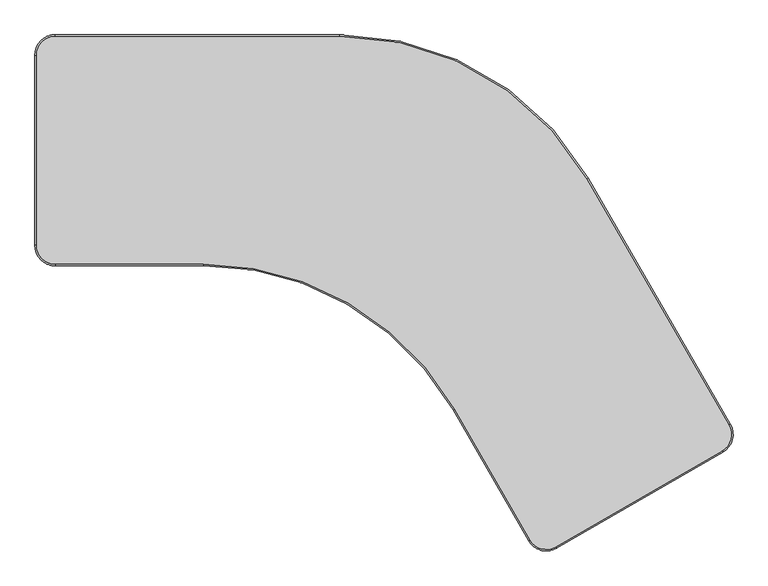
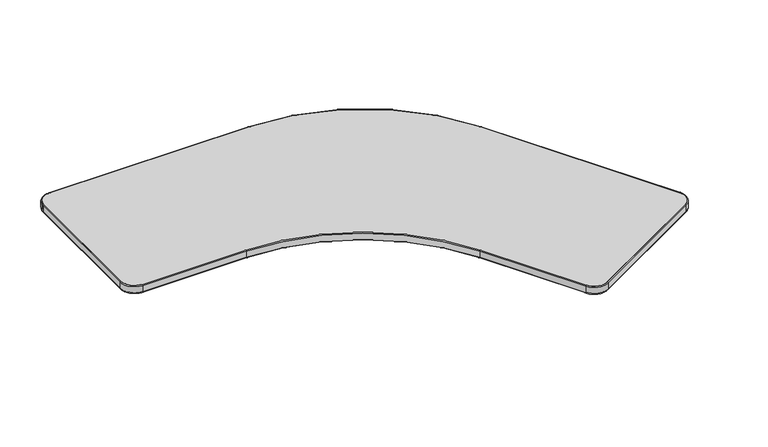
"""IFC4 building model written with IfcOpenShell, lengths in millimetres: furniture geometry, Steelcase - Answer Solution - Universal Table - Corner 120deg - 3mm Edge : 24D x 48W."""

from ifc_helpers import new_model, si_unit, point, frame, frame_2d, origin, place, context, project, spatial, polyline, circle_curve, ellipse_curve, trimmed, segment, composite_curve, outline, extrude, source, transform, mapped, element, save
from ifc_brep_helpers import plane_surface, cylinder_surface, revolved_surface, advanced_brep


def furniture_09d0de0e(model_context):
    return source(origin(), model_context, "Body", "SolidModel", [
        advanced_brep(
        [(53.8515842, -609.5840268, 641.1116623), (0.0, -555.7324426, 641.1116623), (3.0515842, -555.7324426, 638.1749651), (53.8515842, -606.5324426, 638.1749651), (53.8515842, -609.5840268, 665.3021988), (0.0, -555.7324426, 665.3021988), (53.8515842, -606.5324426, 668.274), (3.0515842, -555.7324426, 668.274), (444.7343387, -606.5324426, 638.1749651), (444.7343387, -609.5840268, 641.1116623), (444.7343387, -609.5840268, 665.3021988), (444.7343387, -606.5324426, 668.274), (1105.1067617, -990.8502229, 641.1116623), (1107.7495111, -989.3244308, 638.1749651), (1105.1067617, -990.8502229, 665.3021988), (1107.7495111, -989.3244308, 668.274), (1307.4749139, -1335.258976, 638.1749651), (1304.8321644, -1336.7847681, 641.1116623), (1304.8321644, -1336.7847681, 665.3021988), (1307.4749139, -1335.258976, 668.274), (1378.3947964, -1356.4958159, 641.1116623), (1376.8690044, -1353.8530665, 638.1749651), (1378.3947964, -1356.4958159, 665.3021988), (1376.8690044, -1353.8530665, 668.274), (1816.8099095, -1099.8530665, 638.1749651), (1818.3357016, -1102.4958159, 641.1116623), (1818.3357016, -1102.4958159, 665.3021988), (1816.8099095, -1099.8530665, 668.274), (1838.0467494, -1028.9331839, 641.1116623), (1835.404, -1030.458976, 638.1749651), (1838.0467494, -1028.9331839, 665.3021988), (1835.404, -1030.458976, 668.274), (1460.3433649, -380.8349001, 638.1749651), (1462.9861143, -379.3091081, 641.1116623), (1462.9861143, -379.3091081, 665.3021988), (1460.3433649, -380.8349001, 668.274), (805.9312686, 0.041684, 641.1116623), (805.9312686, -3.0099001, 638.1749651), (805.9312686, 0.041684, 665.3021988), (805.9312686, -3.0099001, 668.274), (53.8515842, -3.0099001, 638.1749651), (53.8515842, 0.041684, 641.1116623), (53.8515842, 0.041684, 665.3021988), (53.8515842, -3.0099001, 668.274), (0.0, -53.8099001, 641.1116623), (3.0515842, -53.8099001, 638.1749651), (0.0, -53.8099001, 665.3021988), (3.0515842, -53.8099001, 668.274)],
        [
            (0, 1, circle_curve(frame((53.8515842, -555.7324426, 641.1116623), z_axis=(0.0, 0.0, -1.0), x_axis=(-1.0, 0.0, 0.0)), 53.8515842)),
            (1, 2, circle_curve(frame((2.9388598, -555.7324426, 641.1116623), z_axis=(0.0, -1.0, 0.0), x_axis=(1.0, 0.0, 0.0)), 2.9388598)),
            (2, 3, circle_curve(frame((53.8515842, -555.7324426, 638.1749651), z_axis=(0.0, 0.0, 1.0), x_axis=(-1.0, 0.0, 0.0)), 50.8)),
            (3, 0, circle_curve(frame((53.8515842, -606.6451669, 641.1116623), z_axis=(-1.0, 0.0, 0.0), x_axis=(0.0, 1.0, 0.0)), 2.9388598)),
            (4, 5, circle_curve(frame((53.8515842, -555.7324426, 665.3021988), z_axis=(0.0, 0.0, -1.0), x_axis=(-1.0, 0.0, 0.0)), 53.8515842)),
            (5, 1),
            (0, 4),
            (6, 7, circle_curve(frame((53.8515842, -555.7324426, 668.274), z_axis=(0.0, 0.0, -1.0), x_axis=(-1.0, 0.0, 0.0)), 50.8)),
            (7, 5, circle_curve(frame((2.9728441, -555.7324426, 665.3021988), z_axis=(0.0, -1.0, 0.0), x_axis=(1.0, 0.0, 0.0)), 2.9728441)),
            (4, 6, circle_curve(frame((53.8515842, -606.6111826, 665.3021988), z_axis=(-1.0, 0.0, 0.0), x_axis=(0.0, 1.0, 0.0)), 2.9728441)),
            (2, 7),
            (6, 3),
            (3, 8),
            (8, 9, circle_curve(frame((444.7343387, -606.6451669, 641.1116623), z_axis=(-1.0, 0.0, 0.0), x_axis=(0.0, 1.0, 0.0)), 2.9388598)),
            (9, 0),
            (9, 10),
            (10, 4),
            (10, 11, circle_curve(frame((444.7343387, -606.6111826, 665.3021988), z_axis=(-1.0, 0.0, 0.0), x_axis=(0.0, 1.0, 0.0)), 2.9728441)),
            (11, 6),
            (11, 8),
            (12, 9, circle_curve(frame((444.7343387, -1372.116419, 641.1116623), z_axis=(0.0, 0.0, 1.0), x_axis=(0.0, 1.0, 0.0)), 762.5323923)),
            (8, 13, circle_curve(frame((444.7343387, -1372.116419, 638.1749651), z_axis=(0.0, 0.0, -1.0), x_axis=(0.0, 1.0, 0.0)), 765.5839765)),
            (13, 12, circle_curve(frame((1107.6518889, -989.380793, 641.1116623), z_axis=(-0.49999999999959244, 0.866025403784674, 0.0), x_axis=(0.866025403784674, 0.49999999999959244, 0.0)), 2.9388598)),
            (14, 10, circle_curve(frame((444.7343387, -1372.116419, 665.3021988), z_axis=(0.0, 0.0, 1.0), x_axis=(0.0, 1.0, 0.0)), 762.5323923)),
            (12, 14),
            (15, 11, circle_curve(frame((444.7343387, -1372.116419, 668.274), z_axis=(0.0, 0.0, 1.0), x_axis=(0.0, 1.0, 0.0)), 765.5839765)),
            (14, 15, circle_curve(frame((1107.6813202, -989.3638008, 665.3021988), z_axis=(-0.49999999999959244, 0.866025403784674, 0.0), x_axis=(0.866025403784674, 0.49999999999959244, 0.0)), 2.9728441)),
            (15, 13),
            (13, 16),
            (16, 17, circle_curve(frame((1307.3772917, -1335.3153382, 641.1116623), z_axis=(-0.4999999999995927, 0.8660254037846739, 0.0), x_axis=(0.8660254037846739, 0.4999999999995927, 0.0)), 2.9388598)),
            (17, 12),
            (17, 18),
            (18, 14),
            (18, 19, circle_curve(frame((1307.406723, -1335.298346, 665.3021988), z_axis=(-0.4999999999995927, 0.8660254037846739, 0.0), x_axis=(0.8660254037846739, 0.4999999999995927, 0.0)), 2.9728441)),
            (19, 15),
            (19, 16),
            (20, 17, circle_curve(frame((1351.4690044, -1309.858976, 641.1116623), z_axis=(0.0, 0.0, -1.0), x_axis=(-0.8660254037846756, -0.49999999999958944, 0.0)), 53.8515842)),
            (16, 21, circle_curve(frame((1351.4690044, -1309.858976, 638.1749651), z_axis=(0.0, 0.0, 1.0), x_axis=(-0.8660254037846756, -0.49999999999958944, 0.0)), 50.8)),
            (21, 20, circle_curve(frame((1376.9253665, -1353.9506886, 641.1116623), z_axis=(-0.8660254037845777, -0.49999999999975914, 0.0), x_axis=(-0.49999999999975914, 0.8660254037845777, 0.0)), 2.9388598)),
            (22, 18, circle_curve(frame((1351.4690044, -1309.858976, 665.3021988), z_axis=(0.0, 0.0, -1.0), x_axis=(-0.8660254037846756, -0.49999999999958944, 0.0)), 53.8515842)),
            (20, 22),
            (23, 19, circle_curve(frame((1351.4690044, -1309.858976, 668.274), z_axis=(0.0, 0.0, -1.0), x_axis=(-0.8660254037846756, -0.49999999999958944, 0.0)), 50.8)),
            (22, 23, circle_curve(frame((1376.9083744, -1353.9212574, 665.3021988), z_axis=(-0.8660254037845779, -0.49999999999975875, 0.0), x_axis=(-0.49999999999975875, 0.8660254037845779, 0.0)), 2.9728441)),
            (23, 21),
            (21, 24),
            (24, 25, circle_curve(frame((1816.8662716, -1099.9506886, 641.1116623), z_axis=(-0.8660254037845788, -0.4999999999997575, 0.0), x_axis=(-0.4999999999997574, 0.8660254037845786, 0.0)), 2.9388598)),
            (25, 20),
            (25, 26),
            (26, 22),
            (26, 27, circle_curve(frame((1816.8492795, -1099.9212574, 665.3021988), z_axis=(-0.8660254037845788, -0.4999999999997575, 0.0), x_axis=(-0.4999999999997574, 0.8660254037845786, 0.0)), 2.9728441)),
            (27, 23),
            (27, 24),
            (28, 25, circle_curve(frame((1791.4099095, -1055.858976, 641.1116623), z_axis=(0.0, 0.0, -1.0), x_axis=(0.49999999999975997, -0.8660254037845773, 0.0)), 53.8515842)),
            (24, 29, circle_curve(frame((1791.4099095, -1055.858976, 638.1749651), z_axis=(0.0, 0.0, 1.0), x_axis=(0.49999999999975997, -0.8660254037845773, 0.0)), 50.8)),
            (29, 28, circle_curve(frame((1835.5016221, -1030.4026138, 641.1116623), z_axis=(0.5000000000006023, -0.866025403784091, 0.0), x_axis=(-0.866025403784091, -0.5000000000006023, 0.0)), 2.9388598)),
            (30, 26, circle_curve(frame((1791.4099095, -1055.858976, 665.3021988), z_axis=(0.0, 0.0, -1.0), x_axis=(0.49999999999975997, -0.8660254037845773, 0.0)), 53.8515842)),
            (28, 30),
            (31, 27, circle_curve(frame((1791.4099095, -1055.858976, 668.274), z_axis=(0.0, 0.0, -1.0), x_axis=(0.49999999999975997, -0.8660254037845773, 0.0)), 50.8)),
            (30, 31, circle_curve(frame((1835.4721909, -1030.419606, 665.3021988), z_axis=(0.5000000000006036, -0.8660254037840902, 0.0), x_axis=(-0.8660254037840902, -0.5000000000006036, 0.0)), 2.9728441)),
            (31, 29),
            (29, 32),
            (32, 33, circle_curve(frame((1460.4409871, -380.778538, 641.1116623), z_axis=(0.5000000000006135, -0.8660254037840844, 0.0), x_axis=(-0.8660254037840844, -0.5000000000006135, 0.0)), 2.9388598)),
            (33, 28),
            (33, 34),
            (34, 30),
            (34, 35, circle_curve(frame((1460.4115558, -380.7955301, 665.3021988), z_axis=(0.5000000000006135, -0.8660254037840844, 0.0), x_axis=(-0.8660254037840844, -0.5000000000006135, 0.0)), 2.9728441)),
            (35, 31),
            (35, 32),
            (36, 33, circle_curve(frame((805.9312686, -758.6599001, 641.1116623), z_axis=(0.0, 0.0, -1.0), x_axis=(0.8660254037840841, 0.5000000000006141, 0.0)), 758.7015842)),
            (32, 37, circle_curve(frame((805.9312686, -758.6599001, 638.1749651), z_axis=(0.0, 0.0, 1.0), x_axis=(0.8660254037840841, 0.5000000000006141, 0.0)), 755.65)),
            (37, 36, circle_curve(frame((805.9312686, -2.8971758, 641.1116623), z_axis=(1.0, 0.0, 0.0), x_axis=(0.0, -1.0, 0.0)), 2.9388598)),
            (38, 34, circle_curve(frame((805.9312686, -758.6599001, 665.3021988), z_axis=(0.0, 0.0, -1.0), x_axis=(0.8660254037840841, 0.5000000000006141, 0.0)), 758.7015842)),
            (36, 38),
            (39, 35, circle_curve(frame((805.9312686, -758.6599001, 668.274), z_axis=(0.0, 0.0, -1.0), x_axis=(0.8660254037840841, 0.5000000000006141, 0.0)), 755.65)),
            (38, 39, circle_curve(frame((805.9312686, -2.9311601, 665.3021988), z_axis=(1.0, 0.0, 0.0), x_axis=(0.0, -1.0, 0.0)), 2.9728441)),
            (39, 37),
            (37, 40),
            (40, 41, circle_curve(frame((53.8515842, -2.8971758, 641.1116623), z_axis=(1.0, 0.0, 0.0), x_axis=(0.0, -1.0, 0.0)), 2.9388598)),
            (41, 36),
            (41, 42),
            (42, 38),
            (42, 43, circle_curve(frame((53.8515842, -2.9311601, 665.3021988), z_axis=(1.0, 0.0, 0.0), x_axis=(0.0, -1.0, 0.0)), 2.9728441)),
            (43, 39),
            (43, 40),
            (44, 41, circle_curve(frame((53.8515842, -53.8099001, 641.1116623), z_axis=(0.0, 0.0, -1.0), x_axis=(0.0, 1.0, 0.0)), 53.8515842)),
            (40, 45, circle_curve(frame((53.8515842, -53.8099001, 638.1749651), z_axis=(0.0, 0.0, 1.0), x_axis=(0.0, 1.0, 0.0)), 50.8)),
            (45, 44, circle_curve(frame((2.9388598, -53.8099001, 641.1116623), z_axis=(0.0, 1.0, 0.0), x_axis=(1.0, 0.0, 0.0)), 2.9388598)),
            (46, 42, circle_curve(frame((53.8515842, -53.8099001, 665.3021988), z_axis=(0.0, 0.0, -1.0), x_axis=(0.0, 1.0, 0.0)), 53.8515842)),
            (44, 46),
            (47, 43, circle_curve(frame((53.8515842, -53.8099001, 668.274), z_axis=(0.0, 0.0, -1.0), x_axis=(0.0, 1.0, 0.0)), 50.8)),
            (46, 47, circle_curve(frame((2.9728441, -53.8099001, 665.3021988), z_axis=(0.0, 1.0, 0.0), x_axis=(1.0, 0.0, 0.0)), 2.9728441)),
            (47, 45),
            (45, 2),
            (1, 44),
            (5, 46),
            (7, 47),
        ],
        [
            revolved_surface(trimmed(ellipse_curve(frame((2.9388598, -555.7324426, 641.1116623), z_axis=(0.0, 1.0, 0.0), x_axis=(1.0, 0.0, 0.0)), 2.9388598, 2.9388598), [point((3.0515842, -555.7324426, 638.1749651))], [point((0.0, -555.7324426, 641.1116623))], True, "CARTESIAN"), (53.8515842, -555.7324426, 638.1749651), (0.0, 0.0, 1.0)),
            cylinder_surface(frame((53.8515842, -555.7324426, 638.1749651), z_axis=(0.0, 0.0, 1.0), x_axis=(-1.0, 0.0, 0.0)), 53.8515842),
            revolved_surface(trimmed(ellipse_curve(frame((2.9728441, -555.7324426, 665.3021988), z_axis=(0.0, 1.0, 0.0), x_axis=(1.0, 0.0, 0.0)), 2.9728441, 2.9728441), [point((0.0, -555.7324426, 665.3021988))], [point((3.0515842, -555.7324426, 668.274))], True, "CARTESIAN"), (53.8515842, -555.7324426, 638.1749651), (0.0, 0.0, 1.0)),
            revolved_surface(polyline([(3.0515842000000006, -555.7324426, 668.274), (3.0515842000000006, -555.7324426, 638.1749651)]), (53.8515842, -555.7324426, 638.1749651), (0.0, 0.0, 1.0)),
            cylinder_surface(frame((53.8515842, -606.6451669, 641.1116623), z_axis=(-1.0, 0.0, 0.0), x_axis=(0.0, 1.0, 0.0)), 2.9388598),
            plane_surface(frame((53.8515842, -609.5840268, 641.1116623), z_axis=(0.0, -1.0, 0.0), x_axis=(1.0, 0.0, 0.0))),
            cylinder_surface(frame((53.8515842, -606.6111826, 665.3021988), z_axis=(-1.0, 0.0, 0.0), x_axis=(0.0, 1.0, 0.0)), 2.9728441),
            plane_surface(frame((53.8515842, -606.5324426, 668.274), z_axis=(0.0, 1.0, 0.0), x_axis=(1.0, 0.0, 0.0))),
            revolved_surface(trimmed(ellipse_curve(frame((444.7343387, -606.6451669, 641.1116623), z_axis=(-1.0, 0.0, 0.0), x_axis=(0.0, 1.0, 0.0)), 2.9388598, 2.9388598), [point((444.7343387, -606.5324426, 638.1749651))], [point((444.7343387, -609.5840268, 641.1116623))], True, "CARTESIAN"), (444.7343387, -1372.116419, 638.1749651), (0.0, 0.0, -1.0)),
            revolved_surface(polyline([(444.7343387, -609.5840267, 641.1116623), (444.7343387, -609.5840267, 665.3021988)]), (444.7343387, -1372.116419, 638.1749651), (0.0, 0.0, -1.0)),
            revolved_surface(trimmed(ellipse_curve(frame((444.7343387, -606.6111826, 665.3021988), z_axis=(-1.0, 0.0, 0.0), x_axis=(0.0, 1.0, 0.0)), 2.9728441, 2.9728441), [point((444.7343387, -609.5840268, 665.3021988))], [point((444.7343387, -606.5324426, 668.274))], True, "CARTESIAN"), (444.7343387, -1372.116419, 638.1749651), (0.0, 0.0, -1.0)),
            cylinder_surface(frame((444.7343387, -1372.116419, 638.1749651), z_axis=(0.0, 0.0, -1.0), x_axis=(0.0, 1.0, 0.0)), 765.5839765),
            cylinder_surface(frame((1107.6518889, -989.380793, 641.1116623), z_axis=(-0.4999999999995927, 0.8660254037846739, 0.0), x_axis=(0.8660254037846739, 0.4999999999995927, 0.0)), 2.9388598),
            plane_surface(frame((1105.1067617, -990.8502229, 641.1116623), z_axis=(-0.8660254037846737, -0.4999999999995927, 0.0), x_axis=(0.4999999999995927, -0.8660254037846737, 0.0))),
            cylinder_surface(frame((1107.6813202, -989.3638008, 665.3021988), z_axis=(-0.4999999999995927, 0.8660254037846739, 0.0), x_axis=(0.8660254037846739, 0.4999999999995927, 0.0)), 2.9728441),
            plane_surface(frame((1107.7495111, -989.3244308, 668.274), z_axis=(0.8660254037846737, 0.4999999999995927, 0.0), x_axis=(0.4999999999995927, -0.8660254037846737, 0.0))),
            revolved_surface(trimmed(ellipse_curve(frame((1307.3772917, -1335.3153382, 641.1116623), z_axis=(-0.4999999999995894, 0.8660254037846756, 0.0), x_axis=(0.8660254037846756, 0.4999999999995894, 0.0)), 2.9388598, 2.9388598), [point((1307.4749139, -1335.258976, 638.1749651))], [point((1304.8321644, -1336.7847681, 641.1116623))], True, "CARTESIAN"), (1351.4690044, -1309.858976, 638.1749651), (0.0, 0.0, 1.0)),
            cylinder_surface(frame((1351.4690044, -1309.858976, 638.1749651), z_axis=(0.0, 0.0, 1.0), x_axis=(-0.8660254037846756, -0.49999999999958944, 0.0)), 53.8515842),
            revolved_surface(trimmed(ellipse_curve(frame((1307.406723, -1335.298346, 665.3021988), z_axis=(-0.4999999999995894, 0.8660254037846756, 0.0), x_axis=(0.8660254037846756, 0.4999999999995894, 0.0)), 2.9728441, 2.9728441), [point((1304.8321644, -1336.7847681, 665.3021988))], [point((1307.4749139, -1335.258976, 668.274))], True, "CARTESIAN"), (1351.4690044, -1309.858976, 638.1749651), (0.0, 0.0, 1.0)),
            revolved_surface(polyline([(1307.4749138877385, -1335.2589759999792, 668.274), (1307.4749138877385, -1335.2589759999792, 638.1749651)]), (1351.4690044, -1309.858976, 638.1749651), (0.0, 0.0, 1.0)),
            cylinder_surface(frame((1376.9253665, -1353.9506886, 641.1116623), z_axis=(-0.8660254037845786, -0.4999999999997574, 0.0), x_axis=(-0.4999999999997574, 0.8660254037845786, 0.0)), 2.9388598),
            plane_surface(frame((1378.3947964, -1356.4958159, 641.1116623), z_axis=(0.4999999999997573, -0.8660254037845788, 0.0), x_axis=(0.8660254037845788, 0.4999999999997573, 0.0))),
            cylinder_surface(frame((1376.9083744, -1353.9212574, 665.3021988), z_axis=(-0.8660254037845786, -0.4999999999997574, 0.0), x_axis=(-0.4999999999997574, 0.8660254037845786, 0.0)), 2.9728441),
            plane_surface(frame((1376.8690044, -1353.8530665, 668.274), z_axis=(-0.4999999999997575, 0.8660254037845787, 0.0), x_axis=(0.8660254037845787, 0.4999999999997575, 0.0))),
            revolved_surface(trimmed(ellipse_curve(frame((1816.8662716, -1099.9506886, 641.1116623), z_axis=(-0.8660254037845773, -0.4999999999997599, 0.0), x_axis=(-0.4999999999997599, 0.8660254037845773, 0.0)), 2.9388598, 2.9388598), [point((1816.8099095, -1099.8530665, 638.1749651))], [point((1818.3357016, -1102.4958159, 641.1116623))], True, "CARTESIAN"), (1791.4099095, -1055.858976, 638.1749651), (0.0, 0.0, 1.0)),
            cylinder_surface(frame((1791.4099095, -1055.858976, 638.1749651), z_axis=(0.0, 0.0, 1.0), x_axis=(0.49999999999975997, -0.8660254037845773, 0.0)), 53.8515842),
            revolved_surface(trimmed(ellipse_curve(frame((1816.8492795, -1099.9212574, 665.3021988), z_axis=(-0.8660254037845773, -0.4999999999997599, 0.0), x_axis=(-0.4999999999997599, 0.8660254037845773, 0.0)), 2.9728441, 2.9728441), [point((1818.3357016, -1102.4958159, 665.3021988))], [point((1816.8099095, -1099.8530665, 668.274))], True, "CARTESIAN"), (1791.4099095, -1055.858976, 638.1749651), (0.0, 0.0, 1.0)),
            revolved_surface(polyline([(1816.8099094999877, -1099.8530665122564, 668.274), (1816.8099094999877, -1099.8530665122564, 638.1749651)]), (1791.4099095, -1055.858976, 638.1749651), (0.0, 0.0, 1.0)),
            cylinder_surface(frame((1835.5016221, -1030.4026138, 641.1116623), z_axis=(0.5000000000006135, -0.8660254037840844, 0.0), x_axis=(-0.8660254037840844, -0.5000000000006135, 0.0)), 2.9388598),
            plane_surface(frame((1838.0467494, -1028.9331839, 641.1116623), z_axis=(0.8660254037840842, 0.5000000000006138, 0.0), x_axis=(-0.5000000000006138, 0.8660254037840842, 0.0))),
            cylinder_surface(frame((1835.4721909, -1030.419606, 665.3021988), z_axis=(0.5000000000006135, -0.8660254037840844, 0.0), x_axis=(-0.8660254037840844, -0.5000000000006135, 0.0)), 2.9728441),
            plane_surface(frame((1835.404, -1030.458976, 668.274), z_axis=(-0.8660254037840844, -0.5000000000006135, 0.0), x_axis=(-0.5000000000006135, 0.8660254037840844, 0.0))),
            revolved_surface(trimmed(ellipse_curve(frame((1460.4409871, -380.778538, 641.1116623), z_axis=(0.5000000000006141, -0.8660254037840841, 0.0), x_axis=(-0.8660254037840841, -0.5000000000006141, 0.0)), 2.9388598, 2.9388598), [point((1460.3433649, -380.8349001, 638.1749651))], [point((1462.9861143, -379.3091081, 641.1116623))], True, "CARTESIAN"), (805.9312686, -758.6599001, 638.1749651), (0.0, 0.0, 1.0)),
            cylinder_surface(frame((805.9312686, -758.6599001, 638.1749651), z_axis=(0.0, 0.0, 1.0), x_axis=(0.8660254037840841, 0.5000000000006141, 0.0)), 758.7015842),
            revolved_surface(trimmed(ellipse_curve(frame((1460.4115558, -380.7955301, 665.3021988), z_axis=(0.5000000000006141, -0.8660254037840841, 0.0), x_axis=(-0.8660254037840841, -0.5000000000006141, 0.0)), 2.9728441, 2.9728441), [point((1462.9861143, -379.3091081, 665.3021988))], [point((1460.3433649, -380.8349001, 668.274))], True, "CARTESIAN"), (805.9312686, -758.6599001, 638.1749651), (0.0, 0.0, 1.0)),
            revolved_surface(polyline([(1460.343364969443, -380.83490009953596, 668.274), (1460.343364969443, -380.83490009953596, 638.1749651)]), (805.9312686, -758.6599001, 638.1749651), (0.0, 0.0, 1.0)),
            cylinder_surface(frame((805.9312686, -2.8971758, 641.1116623), z_axis=(1.0, 0.0, 0.0), x_axis=(0.0, -1.0, 0.0)), 2.9388598),
            plane_surface(frame((805.9312686, 0.041684, 641.1116623), z_axis=(0.0, 1.0, 0.0), x_axis=(-1.0, 0.0, 0.0))),
            cylinder_surface(frame((805.9312686, -2.9311601, 665.3021988), z_axis=(1.0, 0.0, 0.0), x_axis=(0.0, -1.0, 0.0)), 2.9728441),
            plane_surface(frame((805.9312686, -3.0099001, 668.274), z_axis=(0.0, -1.0, 0.0), x_axis=(-1.0, 0.0, 0.0))),
            revolved_surface(trimmed(ellipse_curve(frame((53.8515842, -2.8971758, 641.1116623), z_axis=(1.0, 0.0, 0.0), x_axis=(0.0, -1.0, 0.0)), 2.9388598, 2.9388598), [point((53.8515842, -3.0099001, 638.1749651))], [point((53.8515842, 0.041684, 641.1116623))], True, "CARTESIAN"), (53.8515842, -53.8099001, 638.1749651), (0.0, 0.0, 1.0)),
            cylinder_surface(frame((53.8515842, -53.8099001, 638.1749651), z_axis=(0.0, 0.0, 1.0), x_axis=(0.0, 1.0, 0.0)), 53.8515842),
            revolved_surface(trimmed(ellipse_curve(frame((53.8515842, -2.9311601, 665.3021988), z_axis=(1.0, 0.0, 0.0), x_axis=(0.0, -1.0, 0.0)), 2.9728441, 2.9728441), [point((53.8515842, 0.041684, 665.3021988))], [point((53.8515842, -3.0099001, 668.274))], True, "CARTESIAN"), (53.8515842, -53.8099001, 638.1749651), (0.0, 0.0, 1.0)),
            revolved_surface(polyline([(53.8515842, -3.009900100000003, 668.274), (53.8515842, -3.009900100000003, 638.1749651)]), (53.8515842, -53.8099001, 638.1749651), (0.0, 0.0, 1.0)),
            cylinder_surface(frame((2.9388598, -53.8099001, 641.1116623), z_axis=(0.0, 1.0, 0.0), x_axis=(1.0, 0.0, 0.0)), 2.9388598),
            plane_surface(frame((0.0, -53.8099001, 641.1116623), z_axis=(-1.0, 0.0, 0.0), x_axis=(0.0, -1.0, 0.0))),
            cylinder_surface(frame((2.9728441, -53.8099001, 665.3021988), z_axis=(0.0, 1.0, 0.0), x_axis=(1.0, 0.0, 0.0)), 2.9728441),
            plane_surface(frame((3.0515842, -53.8099001, 668.274), z_axis=(1.0, 0.0, 0.0), x_axis=(0.0, -1.0, 0.0))),
        ],
        [
            (0, [[1, 2, 3, 4]]),
            (1, [[5, 6, -1, 7]]),
            (2, [[8, 9, -5, 10]]),
            (3, [[-3, 11, -8, 12]]),
            (4, [[-4, 13, 14, 15]]),
            (5, [[-7, -15, 16, 17]]),
            (6, [[-10, -17, 18, 19]]),
            (7, [[-12, -19, 20, -13]]),
            (8, [[21, -14, 22, 23]]),
            (9, [[24, -16, -21, 25]]),
            (10, [[26, -18, -24, 27]]),
            (11, [[-22, -20, -26, 28]]),
            (12, [[-23, 29, 30, 31]]),
            (13, [[-25, -31, 32, 33]]),
            (14, [[-27, -33, 34, 35]]),
            (15, [[-28, -35, 36, -29]]),
            (16, [[37, -30, 38, 39]]),
            (17, [[40, -32, -37, 41]]),
            (18, [[42, -34, -40, 43]]),
            (19, [[-38, -36, -42, 44]]),
            (20, [[-39, 45, 46, 47]]),
            (21, [[-41, -47, 48, 49]]),
            (22, [[-43, -49, 50, 51]]),
            (23, [[-44, -51, 52, -45]]),
            (24, [[53, -46, 54, 55]]),
            (25, [[56, -48, -53, 57]]),
            (26, [[58, -50, -56, 59]]),
            (27, [[-54, -52, -58, 60]]),
            (28, [[-55, 61, 62, 63]]),
            (29, [[-57, -63, 64, 65]]),
            (30, [[-59, -65, 66, 67]]),
            (31, [[-60, -67, 68, -61]]),
            (32, [[69, -62, 70, 71]]),
            (33, [[72, -64, -69, 73]]),
            (34, [[74, -66, -72, 75]]),
            (35, [[-70, -68, -74, 76]]),
            (36, [[-71, 77, 78, 79]]),
            (37, [[-73, -79, 80, 81]]),
            (38, [[-75, -81, 82, 83]]),
            (39, [[-76, -83, 84, -77]]),
            (40, [[85, -78, 86, 87]]),
            (41, [[88, -80, -85, 89]]),
            (42, [[90, -82, -88, 91]]),
            (43, [[-86, -84, -90, 92]]),
            (44, [[-87, 93, -2, 94]]),
            (45, [[-89, -94, -6, 95]]),
            (46, [[-91, -95, -9, 96]]),
            (47, [[-92, -96, -11, -93]]),
        ],
    ),
        extrude(outline(composite_curve([segment(polyline([(53.8515842, -3.0099001), (805.9312686, -3.0099001)]), True, "CONTINUOUS"), segment(trimmed(circle_curve(frame_2d((805.9312686, -758.6599001)), 755.65), [point((805.9312686, -3.0099001))], [point((1460.3433649, -380.8349001))], False, "CARTESIAN"), True, "CONTINUOUS"), segment(polyline([(1460.3433649, -380.8349001), (1835.404, -1030.458976)]), True, "CONTINUOUS"), segment(trimmed(circle_curve(frame_2d((1791.4099095, -1055.858976)), 50.8), [point((1835.404, -1030.458976))], [point((1816.8099095, -1099.8530665))], False, "CARTESIAN"), True, "CONTINUOUS"), segment(polyline([(1816.8099095, -1099.8530665), (1376.8690044, -1353.8530665)]), True, "CONTINUOUS"), segment(trimmed(circle_curve(frame_2d((1351.4690044, -1309.858976)), 50.8), [point((1376.8690044, -1353.8530665))], [point((1307.4749139, -1335.258976))], False, "CARTESIAN"), True, "CONTINUOUS"), segment(polyline([(1307.4749139, -1335.258976), (1107.7495111, -989.3244308)]), True, "CONTINUOUS"), segment(trimmed(circle_curve(frame_2d((444.7343387, -1372.116419)), 765.5839765), [point((1107.7495111, -989.3244308))], [point((444.7343387, -606.5324426))], True, "CARTESIAN"), True, "CONTINUOUS"), segment(polyline([(444.7343387, -606.5324426), (53.8515842, -606.5324426)]), True, "CONTINUOUS"), segment(trimmed(circle_curve(frame_2d((53.8515842, -555.7324426)), 50.8), [point((53.8515842, -606.5324426))], [point((3.0515842, -555.7324426))], False, "CARTESIAN"), True, "CONTINUOUS"), segment(polyline([(3.0515842, -555.7324426), (3.0515842, -53.8099001)]), True, "CONTINUOUS"), segment(trimmed(circle_curve(frame_2d((53.8515842, -53.8099001)), 50.8), [point((3.0515842, -53.8099001))], [point((53.8515842, -3.0099001))], False, "CARTESIAN"), True, "CONTINUOUS")], self_intersect=False)), frame((0.0, 0.0, 638.1749651), z_axis=(0.0, 0.0, 1.0), x_axis=(1.0, 0.0, 0.0)), (0.0, 0.0, 1.0), 30.0990349),
    ])


if __name__ == "__main__":
    model = new_model("IFC4")
    model_context = context("Model", 3, world=origin())
    ifc_project = project(units=[si_unit("LENGTHUNIT", "METRE", prefix="MILLI")], contexts=[model_context])
    site = spatial("IfcSite", under=ifc_project)
    building = spatial("IfcBuilding", under=site)
    placement = place(None, origin())
    furniture_shape = furniture_09d0de0e(model_context)
    element("IfcFurniture", 1, ObjectType="Steelcase - Answer Solution - Universal Table - Corner 120deg - 3mm Edge : 24D x 48W", at=placement, inside=building, context=model_context, shape_type="MappedRepresentation", body=[
        mapped(furniture_shape, transform((0.0, 0.0, 0.0), x_axis=(1.0, 0.0, 0.0), y_axis=(0.0, 1.0, 0.0), z_axis=(0.0, 0.0, 1.0))),
    ])
    save(model, "model.ifc")
